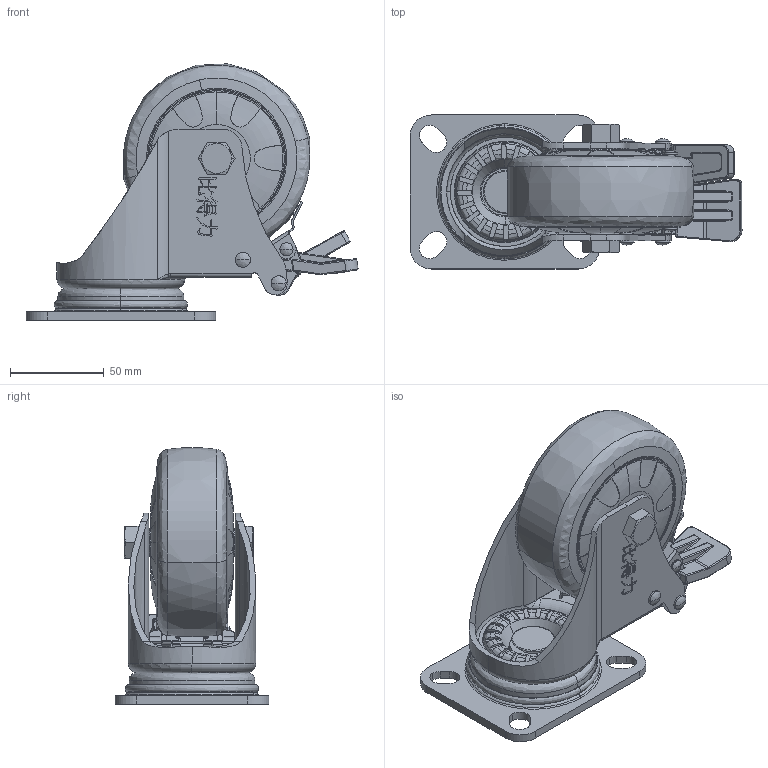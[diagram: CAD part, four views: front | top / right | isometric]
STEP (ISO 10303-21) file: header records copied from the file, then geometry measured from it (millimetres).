
FILE_DESCRIPTION (( 'STEP AP203' ), '1' );
FILE_NAME ('4渡勀砃湍价陬.STEP', '2024-12-30T05:48:31', ( '' ), ( '' ), 'SwSTEP 2.0', 'SolidWorks 2023', '' );
FILE_SCHEMA (( 'CONFIG_CONTROL_DESIGN' ));
Length unit declared in the file: millimetre
Products named in the file (7): 复件 sjacje_1^4寸万向带刹车; 复件 zhou_1^4寸万向带刹车; 复件 gai_1^4寸万向带刹车; 复件 4cun 防尘盖^4寸万向带刹车; 零件13; 复件 4寸轮子^4寸万向带刹车; 4寸万向带刹车
Assembly tree (7 placements, depth 2):
  4寸万向带刹车
    复件 4寸轮子^4寸万向带刹车
    复件 gai_1^4寸万向带刹车
    复件 sjacje_1^4寸万向带刹车
    复件 zhou_1^4寸万向带刹车
    复件 4cun 防尘盖^4寸万向带刹车  x2
    零件13
Bounding box: 176.79 x 82 x 136.54 mm (x, y, z)
Volume: 91028.6 mm3; surface area: 207397.2 mm2
Topology: 6 solids, 89 shells, 1857 faces, 5235 edges, 3297 vertices
Faces by surface type: bspline 1637, plane 108, cylinder 92, torus 20
Entity records: 101067 total; most frequent: CARTESIAN_POINT 70559, ORIENTED_EDGE 9388, EDGE_CURVE 4892, B_SPLINE_CURVE_WITH_KNOTS 3328, VERTEX_POINT 3241, EDGE_LOOP 1934, ADVANCED_FACE 1817, FACE_OUTER_BOUND 1810
